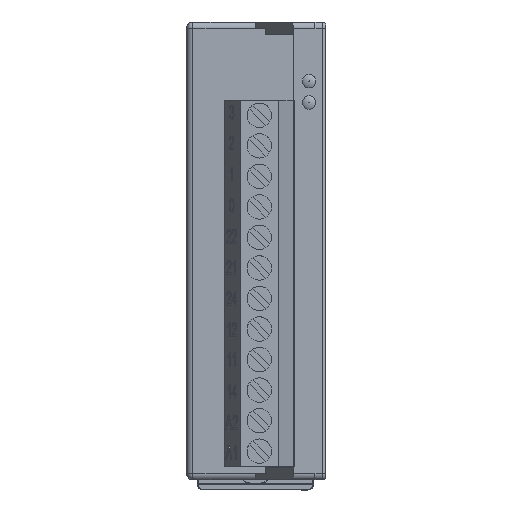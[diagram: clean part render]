
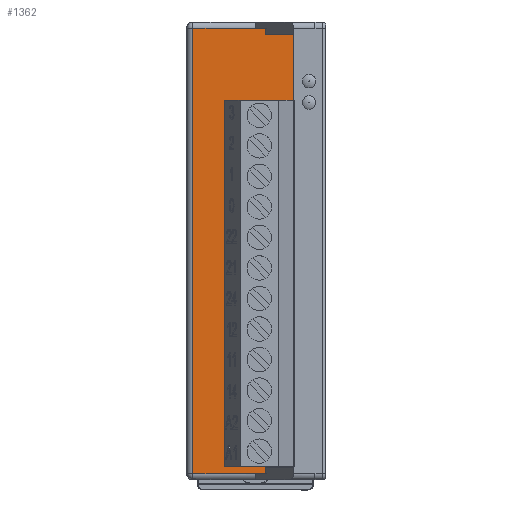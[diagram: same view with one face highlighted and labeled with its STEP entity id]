
A CAD part, left-side view. The second image highlights one B-rep face of the part: STEP entity #1362.
In plain terms, the highlighted planar face has unit normal (-1, 0, 0) as drawn and (1, 0, 0) by its records, which use the part's own axes.
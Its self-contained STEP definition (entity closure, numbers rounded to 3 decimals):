
#330 = CARTESIAN_POINT ( 'NONE',  ( 30., 1.2, -36.5 ) ) ;
#1362 = ADVANCED_FACE ( 'NONE', ( #108032 ), #45090, .F. ) ;
#1402 = VERTEX_POINT ( 'NONE', #37184 ) ;
#2903 = EDGE_CURVE ( 'NONE', #45657, #88668, #29828, .T. ) ;
#6330 = ORIENTED_EDGE ( 'NONE', *, *, #32539, .T. ) ;
#16557 = LINE ( 'NONE', #44513, #53168 ) ;
#18233 = ORIENTED_EDGE ( 'NONE', *, *, #2903, .T. ) ;
#18301 = DIRECTION ( 'NONE',  ( -1., 0., 0. ) ) ;
#22318 = EDGE_CURVE ( 'NONE', #66397, #42853, #92072, .T. ) ;
#25002 = DIRECTION ( 'NONE',  ( 0., 1., 0. ) ) ;
#27119 = DIRECTION ( 'NONE',  ( 0., 0., 1. ) ) ;
#27153 = CARTESIAN_POINT ( 'NONE',  ( 30., -14.3, -36.5 ) ) ;
#29395 = VERTEX_POINT ( 'NONE', #84395 ) ;
#29463 = VECTOR ( 'NONE', #87812, 1000. ) ;
#29828 = LINE ( 'NONE', #330, #53778 ) ;
#32539 = EDGE_CURVE ( 'NONE', #98623, #45657, #58955, .T. ) ;
#32903 = VERTEX_POINT ( 'NONE', #108817 ) ;
#33173 = CARTESIAN_POINT ( 'NONE',  ( 30., 0.2, 36.5 ) ) ;
#35426 = EDGE_CURVE ( 'NONE', #42853, #42003, #53413, .T. ) ;
#37184 = CARTESIAN_POINT ( 'NONE',  ( 30., -10.082, 36.5 ) ) ;
#39876 = CARTESIAN_POINT ( 'NONE',  ( 30., -16.3, -36.5 ) ) ;
#40834 = CARTESIAN_POINT ( 'NONE',  ( 30., -16.3, -35.5 ) ) ;
#41331 = EDGE_CURVE ( 'NONE', #98623, #32903, #103822, .T. ) ;
#42003 = VERTEX_POINT ( 'NONE', #69058 ) ;
#42853 = VERTEX_POINT ( 'NONE', #64123 ) ;
#44513 = CARTESIAN_POINT ( 'NONE',  ( 30., -16.3, 36.5 ) ) ;
#45090 = PLANE ( 'NONE',  #47477 ) ;
#45452 = CARTESIAN_POINT ( 'NONE',  ( 30., -10.082, -36.5 ) ) ;
#45657 = VERTEX_POINT ( 'NONE', #45452 ) ;
#47148 = LINE ( 'NONE', #54356, #116283 ) ;
#47477 = AXIS2_PLACEMENT_3D ( 'NONE', #54130, #18301, #81374 ) ;
#50712 = ORIENTED_EDGE ( 'NONE', *, *, #107077, .T. ) ;
#50789 = CARTESIAN_POINT ( 'NONE',  ( 30., 0.2, -36.5 ) ) ;
#53168 = VECTOR ( 'NONE', #89508, 1000. ) ;
#53413 = LINE ( 'NONE', #60524, #29463 ) ;
#53778 = VECTOR ( 'NONE', #54279, 1000. ) ;
#54130 = CARTESIAN_POINT ( 'NONE',  ( 30., 1.2, 37.5 ) ) ;
#54279 = DIRECTION ( 'NONE',  ( 0., 1., 0. ) ) ;
#54356 = CARTESIAN_POINT ( 'NONE',  ( 30., 0.2, 37.5 ) ) ;
#58666 = VECTOR ( 'NONE', #27119, 1000. ) ;
#58955 = LINE ( 'NONE', #39876, #80164 ) ;
#60524 = CARTESIAN_POINT ( 'NONE',  ( 30., -14.3, 35.5 ) ) ;
#60606 = CARTESIAN_POINT ( 'NONE',  ( 30., -16.3, 36.5 ) ) ;
#60824 = CARTESIAN_POINT ( 'NONE',  ( 30., -16.3, 35.5 ) ) ;
#63412 = DIRECTION ( 'NONE',  ( 0., 0., 1. ) ) ;
#64123 = CARTESIAN_POINT ( 'NONE',  ( 30., -14.3, 35.5 ) ) ;
#64131 = CARTESIAN_POINT ( 'NONE',  ( 30., -16.3, 35.5 ) ) ;
#66397 = VERTEX_POINT ( 'NONE', #64131 ) ;
#66869 = DIRECTION ( 'NONE',  ( 0., -1., 0. ) ) ;
#67996 = VECTOR ( 'NONE', #25002, 1000. ) ;
#69058 = CARTESIAN_POINT ( 'NONE',  ( 30., -14.3, 36.5 ) ) ;
#72004 = CARTESIAN_POINT ( 'NONE',  ( 30., -14.3, -37.5 ) ) ;
#72574 = EDGE_CURVE ( 'NONE', #32903, #29395, #77947, .T. ) ;
#73171 = LINE ( 'NONE', #60606, #94383 ) ;
#73372 = ORIENTED_EDGE ( 'NONE', *, *, #35426, .F. ) ;
#75676 = EDGE_LOOP ( 'NONE', ( #114721, #50712, #98972, #73372, #77241, #99445, #115471, #106326, #6330, #18233 ) ) ;
#75945 = CARTESIAN_POINT ( 'NONE',  ( 30., 1.2, 36.5 ) ) ;
#76642 = VERTEX_POINT ( 'NONE', #33173 ) ;
#77241 = ORIENTED_EDGE ( 'NONE', *, *, #22318, .F. ) ;
#77947 = LINE ( 'NONE', #40834, #83616 ) ;
#78624 = EDGE_CURVE ( 'NONE', #42003, #1402, #16557, .T. ) ;
#80164 = VECTOR ( 'NONE', #112067, 1000. ) ;
#81374 = DIRECTION ( 'NONE',  ( 0., 0., 1. ) ) ;
#83616 = VECTOR ( 'NONE', #103933, 1000. ) ;
#84395 = CARTESIAN_POINT ( 'NONE',  ( 30., -16.3, -35.5 ) ) ;
#87812 = DIRECTION ( 'NONE',  ( 0., 0., 1. ) ) ;
#88668 = VERTEX_POINT ( 'NONE', #50789 ) ;
#89508 = DIRECTION ( 'NONE',  ( 0., 1., 0. ) ) ;
#90255 = EDGE_CURVE ( 'NONE', #29395, #66397, #73171, .T. ) ;
#92072 = LINE ( 'NONE', #60824, #67996 ) ;
#94383 = VECTOR ( 'NONE', #96915, 1000. ) ;
#96915 = DIRECTION ( 'NONE',  ( 0., 0., 1. ) ) ;
#98623 = VERTEX_POINT ( 'NONE', #27153 ) ;
#98972 = ORIENTED_EDGE ( 'NONE', *, *, #78624, .F. ) ;
#99445 = ORIENTED_EDGE ( 'NONE', *, *, #90255, .F. ) ;
#103822 = LINE ( 'NONE', #72004, #58666 ) ;
#103933 = DIRECTION ( 'NONE',  ( 0., -1., 0. ) ) ;
#106326 = ORIENTED_EDGE ( 'NONE', *, *, #41331, .F. ) ;
#107077 = EDGE_CURVE ( 'NONE', #76642, #1402, #113663, .T. ) ;
#108032 = FACE_OUTER_BOUND ( 'NONE', #75676, .T. ) ;
#108303 = EDGE_CURVE ( 'NONE', #88668, #76642, #47148, .T. ) ;
#108817 = CARTESIAN_POINT ( 'NONE',  ( 30., -14.3, -35.5 ) ) ;
#110840 = VECTOR ( 'NONE', #66869, 1000. ) ;
#112067 = DIRECTION ( 'NONE',  ( 0., 1., 0. ) ) ;
#113663 = LINE ( 'NONE', #75945, #110840 ) ;
#114721 = ORIENTED_EDGE ( 'NONE', *, *, #108303, .T. ) ;
#115471 = ORIENTED_EDGE ( 'NONE', *, *, #72574, .F. ) ;
#116283 = VECTOR ( 'NONE', #63412, 1000. ) ;
